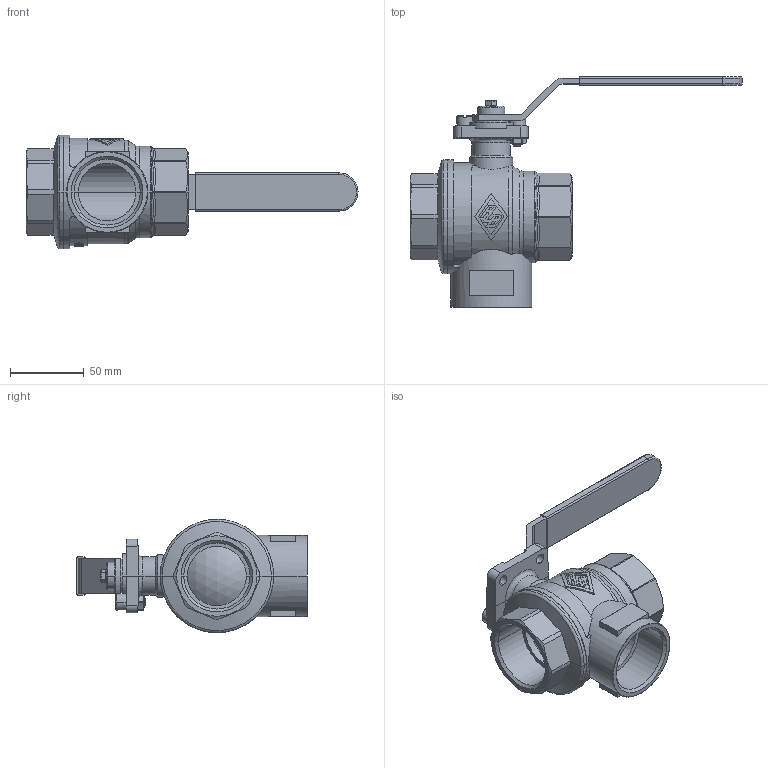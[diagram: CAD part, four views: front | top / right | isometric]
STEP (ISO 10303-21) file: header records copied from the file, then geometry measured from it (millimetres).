
FILE_DESCRIPTION(('Creo Elements/Direct Modeling STEP Export'),'2;1');
FILE_NAME('3110080000.stp','2021-05-20T10:40:33',(''),(''),'Creo Elements/Direct Modeling STEP processor for AP214 (Solid Model)','Creo Elements/Direct Modeling 20.1D 10-Oct-2020 (C) Parametric Technology GmbH','');
FILE_SCHEMA(('AUTOMOTIVE_DESIGN { 1 0 10303 214 1 1 1 1 }'));
Length unit declared in the file: millimetre
Products named in the file (2): 3110080000
Assembly tree (1 placements, depth 2):
  3110080000
    3110080000
Bounding box: 225 x 156.35 x 77 mm (x, y, z)
Volume: 282886.4 mm3; surface area: 73439.2 mm2
Topology: 1 solids, 1 shells, 701 faces, 1928 edges, 1262 vertices
Faces by surface type: plane 495, cylinder 125, cone 53, torus 17, bspline 10, sphere 1
Entity records: 34864 total; most frequent: CARTESIAN_POINT 16156, ORIENTED_EDGE 3852, DIRECTION 3702, EDGE_CURVE 1926, AXIS2_PLACEMENT_3D 1385, VERTEX_POINT 1262, VECTOR 932, LINE 932
